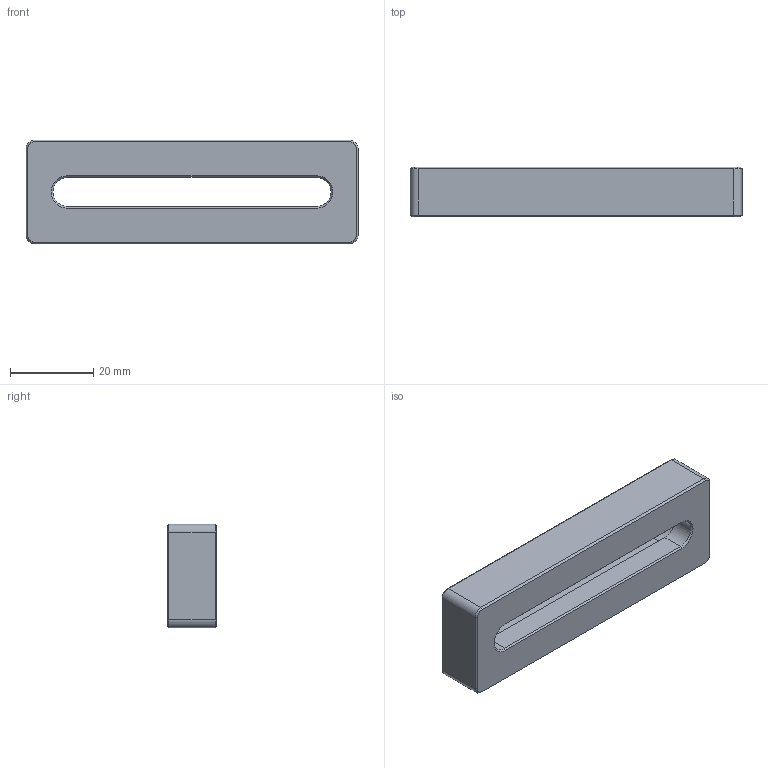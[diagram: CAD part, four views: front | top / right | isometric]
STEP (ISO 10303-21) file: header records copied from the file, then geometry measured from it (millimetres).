
FILE_DESCRIPTION(/* description */ (''),/* implementation_level */ '2;1');
FILE_NAME(/* name */ '55054 - Cylinder Strap Clamp.step',/* time_stamp */ '2025-10-28T08:44:08-05:00',/* author */ (''),/* organization */ (''),/* preprocessor_version */ 'ST-DEVELOPER v20.1',/* originating_system */ 'Autodesk Translation Framework v14.17.0.0',/* authorisation */ '');
FILE_SCHEMA (('AUTOMOTIVE_DESIGN { 1 0 10303 214 3 1 1 }'));
Length unit declared in the file: millimetre
Products named in the file (1): CYLINDER STRAP
Bounding box: 80 x 12 x 25 mm (x, y, z)
Volume: 16532 mm3; surface area: 7171.7 mm2
Topology: 1 solids, 1 shells, 43 faces, 96 edges, 56 vertices
Faces by surface type: plane 23, cone 12, cylinder 8
Entity records: 1210 total; most frequent: DIRECTION 212, CARTESIAN_POINT 196, ORIENTED_EDGE 192, EDGE_CURVE 96, AXIS2_PLACEMENT_3D 72, LINE 68, VECTOR 68, VERTEX_POINT 56
